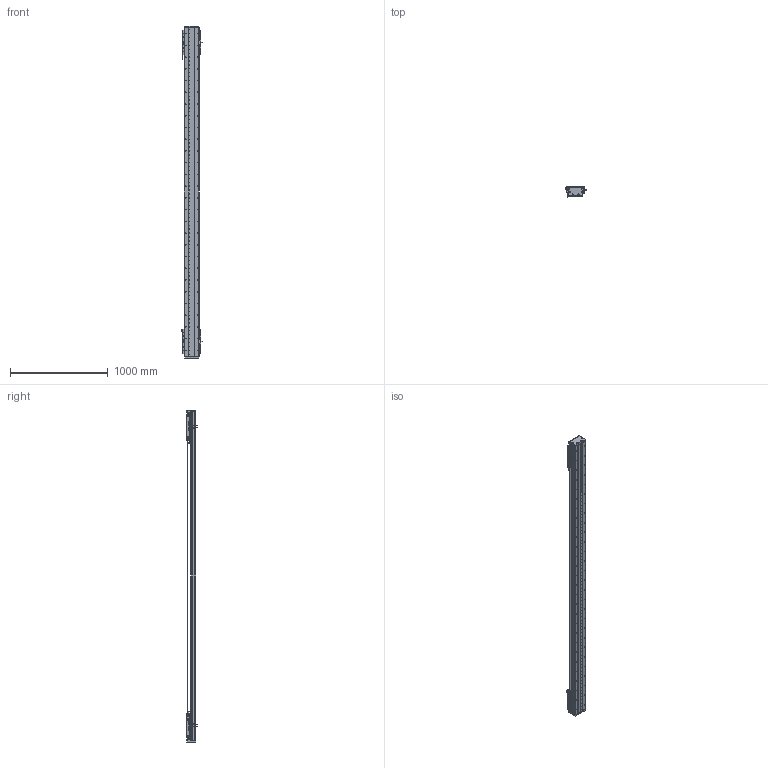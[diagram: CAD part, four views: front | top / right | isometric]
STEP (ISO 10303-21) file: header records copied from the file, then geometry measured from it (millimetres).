
FILE_DESCRIPTION (( 'STEP AP203' ), '1' );
FILE_NAME ('DA-C145-2-C3-T2780-C010-0.2 眻盄萇儂.STEP', '2025-08-14T00:37:58', ( '' ), ( '' ), 'SwSTEP 2.0', 'SolidWorks 2019', '' );
FILE_SCHEMA (( 'CONFIG_CONTROL_DESIGN' ));
Length unit declared in the file: millimetre
Products named in the file (38): 复件 DA95-MFP-01 密封片^CU145-W 滚珠滑台; DA-C145-2-C3-T2780-C010-0.2 眻盄萇儂; 复件 纯铜油杯 6x6mm^CU145-W 滚珠滑台; 葩璃 CKM03-W060-C1C2-TP-0.2^DA-C145-2-C3-T-C010-0.2; 复件 DA145-C3-YB-B-00 压板B^CU145-W 滚珠滑台; 葩璃 DA95-HXJ-00 遣喳砎蝶^DA-C145-2-C3-T-C010-0.2; 葩璃 CU145 詩湍郪璃^DA-C145-2-C3-T-C010-0.2; 复件 DA145-DG 钢带端盖^复件 CU145 钢带组件_DA-C145-2-C3-T-C010-0.2; IU-CU145-L 菁釱絳寢; 复件 内六角平端紧定螺钉 GB.T77-2000 M5×10^CU145-W 滚珠滑台; 葩璃 PM-T45^DA-C145-2-C3-T-C010-0.2; 复件 DA95-DB-00  挡板^CU145-W 滚珠滑台; 复件 DA146 钢带拉块^复件 CU145 钢带组件_DA-C145-2-C3-T-C010-0.2; 葩璃 CKMA01-W060-TRL^DA-C145-2-C3-T-C010-0.2; CU145-W 幗紩賑怢; DKW-GYP-ZJ-00 笢潔嫖萇覜茼え; TAY01-M8; 复件 DA145-C3-YB-A-00 压板A^CU145-W 滚珠滑台; 复件 半圆头内六角螺钉 M3×6^CU145-W 滚珠滑台; CU145-W-00 珨极趙賑雄怢啣-1; CU145-W-00 珨极趙賑雄怢啣; DKW-KGZ-ZJ-00 中间光电开关支架; CU145-W 幗紩賑怢-1; 复件 DA145-GYP-00 光电感应片^DA-C145-2-C3-T-C010-0.2; 葩璃 鞠褒情蹟譫 M3^DA-C145-2-C3-T-C010-0.2; 葩璃 DA145-C3-DP-A-00 菜えA^CU145-W 幗紩賑怢; DKW168-HXJ-ZJ-00 笢潔滅袉砎蝶; 葩璃 DMA-010-0.2 黍杅芛^DA-C145-2-C3-T-C010-0.2; 66245-CU145-HT-W-00 賑雄怢啣(3D芞祧)(00); 葩璃 DA145-C3-DP-B-00 菜えB^CU145-W 幗紩賑怢; 复件 DA95-HK-GT-00 滑块钢轨^CU145-W-00 一体化滑动台板; IU-CU145-L-00 菁釱(L3360); 复件 DA145-C3-DK-00 挡块^CU145-W 滚珠滑台; 葩璃 XD-U-02L 棠掑喜^DA-C145-2-C3-T-C010-0.2; 复件 DA145 钢带^复件 CU145 钢带组件_DA-C145-2-C3-T-C010-0.2; 复件 DA146 钢带垫块^复件 CU145 钢带组件_DA-C145-2-C3-T-C010-0.2; 葩璃 DA95-GT-T-00^IU-CU145-L 菁釱絳寢; 葩璃 PM-Y65^DA-C145-2-C3-T-C010-0.2
Assembly tree (180 placements, depth 4):
  DA-C145-2-C3-T2780-C010-0.2 眻盄萇儂
    IU-CU145-L 菁釱絳寢
      IU-CU145-L-00 菁釱(L3360)
      葩璃 DA95-GT-T-00^IU-CU145-L 菁釱絳寢  x4
    葩璃 CU145 詩湍郪璃^DA-C145-2-C3-T-C010-0.2
      复件 DA145-DG 钢带端盖^复件 CU145 钢带组件_DA-C145-2-C3-T-C010-0.2  x2
      复件 DA146 钢带拉块^复件 CU145 钢带组件_DA-C145-2-C3-T-C010-0.2  x2
      复件 DA146 钢带垫块^复件 CU145 钢带组件_DA-C145-2-C3-T-C010-0.2  x2
      复件 DA145 钢带^复件 CU145 钢带组件_DA-C145-2-C3-T-C010-0.2
    CU145-W 幗紩賑怢
      CU145-W-00 珨极趙賑雄怢啣
        66245-CU145-HT-W-00 賑雄怢啣(3D芞祧)(00)
        复件 DA95-HK-GT-00 滑块钢轨^CU145-W-00 一体化滑动台板  x8
      复件 DA95-MFP-01 密封片^CU145-W 滚珠滑台  x8
      复件 DA95-DB-00  挡板^CU145-W 滚珠滑台  x8
      复件 内六角平端紧定螺钉 GB.T77-2000 M5×10^CU145-W 滚珠滑台  x4
      复件 纯铜油杯 6x6mm^CU145-W 滚珠滑台  x4
      复件 半圆头内六角螺钉 M3×6^CU145-W 滚珠滑台  x16
      复件 DA145-C3-DK-00 挡块^CU145-W 滚珠滑台  x4
      葩璃 DA145-C3-DP-B-00 菜えB^CU145-W 幗紩賑怢  x2
      复件 DA145-C3-YB-B-00 压板B^CU145-W 滚珠滑台  x2
      葩璃 DA145-C3-DP-A-00 菜えA^CU145-W 幗紩賑怢  x3
      复件 DA145-C3-YB-A-00 压板A^CU145-W 滚珠滑台  x3
      TAY01-M8  x4
    CU145-W 幗紩賑怢-1
      CU145-W-00 珨极趙賑雄怢啣-1
        66245-CU145-HT-W-00 賑雄怢啣(3D芞祧)(00)
        复件 DA95-HK-GT-00 滑块钢轨^CU145-W-00 一体化滑动台板  x8
      复件 DA95-MFP-01 密封片^CU145-W 滚珠滑台  x8
      复件 DA95-DB-00  挡板^CU145-W 滚珠滑台  x8
      复件 内六角平端紧定螺钉 GB.T77-2000 M5×10^CU145-W 滚珠滑台  x4
      复件 纯铜油杯 6x6mm^CU145-W 滚珠滑台  x4
      复件 半圆头内六角螺钉 M3×6^CU145-W 滚珠滑台  x16
      复件 DA145-C3-DK-00 挡块^CU145-W 滚珠滑台  x4
      葩璃 DA145-C3-DP-B-00 菜えB^CU145-W 幗紩賑怢  x2
      复件 DA145-C3-YB-B-00 压板B^CU145-W 滚珠滑台  x2
      葩璃 DA145-C3-DP-A-00 菜えA^CU145-W 幗紩賑怢  x3
      复件 DA145-C3-YB-A-00 压板A^CU145-W 滚珠滑台  x3
      TAY01-M8  x4
    葩璃 CKMA01-W060-TRL^DA-C145-2-C3-T-C010-0.2
    葩璃 PM-T45^DA-C145-2-C3-T-C010-0.2  x4
    葩璃 XD-U-02L 棠掑喜^DA-C145-2-C3-T-C010-0.2
    葩璃 DA95-HXJ-00 遣喳砎蝶^DA-C145-2-C3-T-C010-0.2  x4
    葩璃 CKM03-W060-C1C2-TP-0.2^DA-C145-2-C3-T-C010-0.2  x2
    葩璃 DMA-010-0.2 黍杅芛^DA-C145-2-C3-T-C010-0.2  x2
    复件 DA145-GYP-00 光电感应片^DA-C145-2-C3-T-C010-0.2  x2
    DKW-GYP-ZJ-00 笢潔嫖萇覜茼え
    DKW-KGZ-ZJ-00 中间光电开关支架
    葩璃 PM-Y65^DA-C145-2-C3-T-C010-0.2
    葩璃 鞠褒情蹟譫 M3^DA-C145-2-C3-T-C010-0.2  x8
    DKW168-HXJ-ZJ-00 笢潔滅袉砎蝶
Bounding box: 213.7 x 108.45 x 3396 mm (x, y, z)
Volume: 17260836.6 mm3; surface area: 5601565.1 mm2
Topology: 175 solids, 239 shells, 7871 faces, 21759 edges, 13525 vertices
Faces by surface type: cylinder 3568, plane 2963, cone 1184, torus 140, sphere 8, bspline 8
Entity records: 158906 total; most frequent: CARTESIAN_POINT 48050, ORIENTED_EDGE 22204, DIRECTION 20743, EDGE_CURVE 11102, AXIS2_PLACEMENT_3D 7665, VERTEX_POINT 7224, LINE 5413, VECTOR 5413
